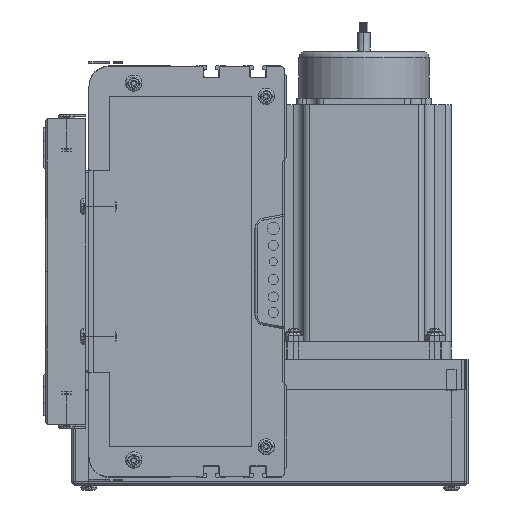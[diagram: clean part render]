
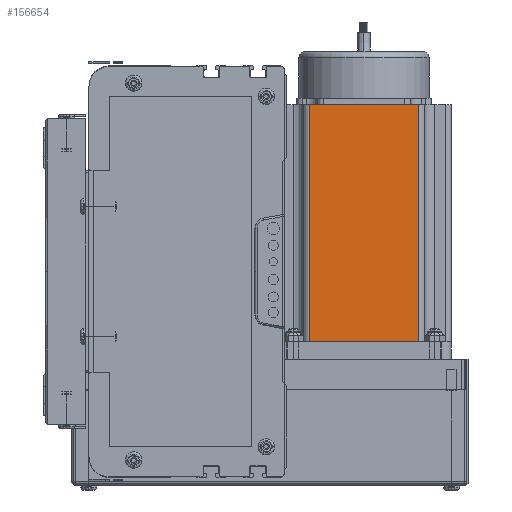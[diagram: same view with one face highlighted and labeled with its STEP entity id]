
A CAD part, left-side view. The second image highlights one B-rep face of the part: STEP entity #156654.
In plain terms, the highlighted planar face has unit normal (-1, 0, 0) as drawn and (0, -1, 0) by its records, which use the part's own axes.
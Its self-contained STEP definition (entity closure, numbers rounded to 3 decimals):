
#1792 = ORIENTED_EDGE ( 'NONE', *, *, #152216, .T. ) ;
#3483 = DIRECTION ( 'NONE',  ( 0., 0., 1. ) ) ;
#3485 = VECTOR ( 'NONE', #3483, 1000. ) ;
#3489 = CARTESIAN_POINT ( 'NONE',  ( 69.74, 0., 116.5 ) ) ;
#3535 = LINE ( 'NONE', #3489, #3485 ) ;
#10747 = DIRECTION ( 'NONE',  ( 1., 0., 0. ) ) ;
#10749 = VECTOR ( 'NONE', #10747, 1000. ) ;
#10750 = CARTESIAN_POINT ( 'NONE',  ( 0., 0., 116.5 ) ) ;
#10751 = LINE ( 'NONE', #10750, #10749 ) ;
#11295 = CARTESIAN_POINT ( 'NONE',  ( 16.16, 0., 116.5 ) ) ;
#11301 = CARTESIAN_POINT ( 'NONE',  ( 16.16, 0., 116.5 ) ) ;
#11302 = LINE ( 'NONE', #11301, #11368 ) ;
#11365 = DIRECTION ( 'NONE',  ( 0., 0., -1. ) ) ;
#11368 = VECTOR ( 'NONE', #11365, 1000. ) ;
#12386 = DIRECTION ( 'NONE',  ( 0., 1., 0. ) ) ;
#12397 = DIRECTION ( 'NONE',  ( 0., 0., 1. ) ) ;
#12404 = FACE_OUTER_BOUND ( 'NONE', #157607, .T. ) ;
#12408 = DIRECTION ( 'NONE',  ( 1., 0., 0. ) ) ;
#12409 = VECTOR ( 'NONE', #12408, 1000. ) ;
#12414 = PLANE ( 'NONE',  #12546 ) ;
#12431 = CARTESIAN_POINT ( 'NONE',  ( 0., 0., 0. ) ) ;
#12432 = LINE ( 'NONE', #12431, #12409 ) ;
#12455 = CARTESIAN_POINT ( 'NONE',  ( 0., 0., 116.5 ) ) ;
#12546 = AXIS2_PLACEMENT_3D ( 'NONE', #12455, #12386, #12397 ) ;
#12698 = CARTESIAN_POINT ( 'NONE',  ( 69.74, 0., 0. ) ) ;
#12718 = CARTESIAN_POINT ( 'NONE',  ( 16.16, 0., 0. ) ) ;
#13068 = CARTESIAN_POINT ( 'NONE',  ( 69.74, 0., 116.5 ) ) ;
#149307 = EDGE_CURVE ( 'NONE', #157282, #157677, #3535, .T. ) ;
#151670 = EDGE_CURVE ( 'NONE', #152011, #157677, #10751, .T. ) ;
#151769 = ORIENTED_EDGE ( 'NONE', *, *, #149307, .T. ) ;
#152011 = VERTEX_POINT ( 'NONE', #11295 ) ;
#152216 = EDGE_CURVE ( 'NONE', #152011, #157280, #11302, .T. ) ;
#156473 = ORIENTED_EDGE ( 'NONE', *, *, #151670, .F. ) ;
#156489 = EDGE_CURVE ( 'NONE', #157280, #157282, #12432, .T. ) ;
#156654 = ADVANCED_FACE ( 'NONE', ( #12404 ), #12414, .F. ) ;
#157280 = VERTEX_POINT ( 'NONE', #12718 ) ;
#157282 = VERTEX_POINT ( 'NONE', #12698 ) ;
#157594 = ORIENTED_EDGE ( 'NONE', *, *, #156489, .T. ) ;
#157607 = EDGE_LOOP ( 'NONE', ( #157594, #151769, #156473, #1792 ) ) ;
#157677 = VERTEX_POINT ( 'NONE', #13068 ) ;
